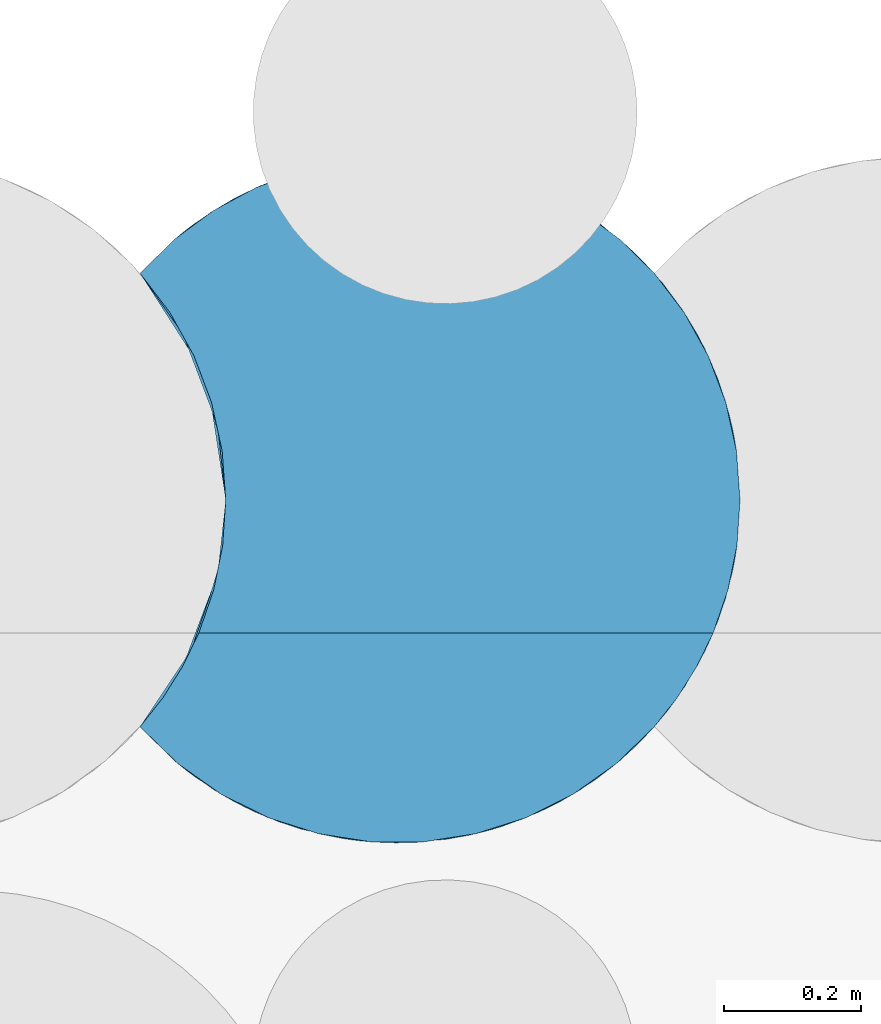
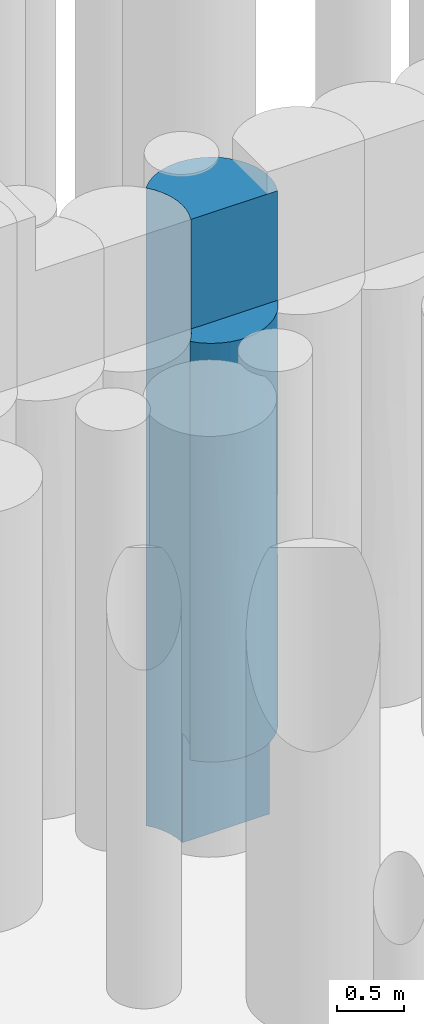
# One storey, part 94 of 104: 1 pile.
"""IFC2X3 building model written with IfcOpenShell, lengths in millimetres."""

from ifc_helpers import new_model, entity, si_unit, converted_unit, derived_unit, direction, frame, origin, place, context, subcontext, project, spatial, faceted_brep, source, transform, mapped, material, element, save


model = new_model("IFC2X3")

# Units and contexts
model_context = context("Model", 3, precision=0.01, world=origin(), true_north=direction((6.12303176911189e-17, 1.0)))
body_context = subcontext(model_context, "Body", "Model", "MODEL_VIEW")
ifc_project = project(units=[si_unit("LENGTHUNIT", "METRE", prefix="MILLI"), si_unit("AREAUNIT", "SQUARE_METRE", prefix="MILLI"), si_unit("VOLUMEUNIT", "CUBIC_METRE"), converted_unit("PLANEANGLEUNIT", "DEGREE", entity("IfcRatioMeasure", 0.0174532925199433), si_unit("PLANEANGLEUNIT", "RADIAN"), dimensions=[0, 0, 0, 0, 0, 0, 0]), si_unit("MASSUNIT", "GRAM", prefix="KILO"), derived_unit("MASSDENSITYUNIT", [(si_unit("MASSUNIT", "GRAM", prefix="KILO"), 1), (si_unit("LENGTHUNIT", "METRE"), -3)]), derived_unit("MOMENTOFINERTIAUNIT", [(si_unit("LENGTHUNIT", "METRE"), 4)]), si_unit("TIMEUNIT", "SECOND"), si_unit("FREQUENCYUNIT", "HERTZ"), si_unit("THERMODYNAMICTEMPERATUREUNIT", "DEGREE_CELSIUS"), derived_unit("THERMALTRANSMITTANCEUNIT", [(si_unit("MASSUNIT", "GRAM", prefix="KILO"), 1), (si_unit("THERMODYNAMICTEMPERATUREUNIT", "KELVIN"), -1), (si_unit("TIMEUNIT", "SECOND"), -3)]), derived_unit("VOLUMETRICFLOWRATEUNIT", [(si_unit("LENGTHUNIT", "METRE"), 3), (si_unit("TIMEUNIT", "SECOND"), -1)]), si_unit("ELECTRICCURRENTUNIT", "AMPERE"), si_unit("ELECTRICVOLTAGEUNIT", "VOLT"), si_unit("POWERUNIT", "WATT"), si_unit("FORCEUNIT", "NEWTON", prefix="KILO"), si_unit("ILLUMINANCEUNIT", "LUX"), si_unit("LUMINOUSFLUXUNIT", "LUMEN"), si_unit("LUMINOUSINTENSITYUNIT", "CANDELA"), derived_unit("USERDEFINED", [(si_unit("MASSUNIT", "GRAM", prefix="KILO"), -1), (si_unit("LENGTHUNIT", "METRE"), -2), (si_unit("TIMEUNIT", "SECOND"), 3), (si_unit("LUMINOUSFLUXUNIT", "LUMEN"), 1)]), derived_unit("LINEARVELOCITYUNIT", [(si_unit("LENGTHUNIT", "METRE"), 1), (si_unit("TIMEUNIT", "SECOND"), -1)]), si_unit("PRESSUREUNIT", "PASCAL"), derived_unit("USERDEFINED", [(si_unit("LENGTHUNIT", "METRE"), -2), (si_unit("MASSUNIT", "GRAM", prefix="KILO"), 1), (si_unit("TIMEUNIT", "SECOND"), -2)]), derived_unit("LINEARFORCEUNIT", [(si_unit("MASSUNIT", "GRAM", prefix="KILO"), 1), (si_unit("LENGTHUNIT", "METRE"), 1), (si_unit("TIMEUNIT", "SECOND"), -2), (si_unit("LENGTHUNIT", "METRE"), -1)]), derived_unit("PLANARFORCEUNIT", [(si_unit("MASSUNIT", "GRAM", prefix="KILO"), 1), (si_unit("LENGTHUNIT", "METRE"), 1), (si_unit("TIMEUNIT", "SECOND"), -2), (si_unit("LENGTHUNIT", "METRE"), -2)])], contexts=[model_context])

# Site, building, storey
site_placement = place(None, origin())
site = spatial("IfcSite", under=ifc_project, at=site_placement, Name="Theater aan de Parade", CompositionType="ELEMENT")
building_placement = place(site_placement, origin())
building = spatial("IfcBuilding", under=site, at=building_placement, Name="Theater aan de Parade", CompositionType="ELEMENT")
storey_placement = place(building_placement, frame((0.0, 0.0, -5520.0)))
storey = spatial("IfcBuildingStorey", under=building, at=storey_placement, Name="-2 kelder", CompositionType="ELEMENT", Elevation=-5520.0)

# Pile
ifc_material = material(Name="00_PBT_MAT_grout")
shared_shape = source(origin(), body_context, "Body", "Brep", [
    faceted_brep([(447.02456758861, 996.610134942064, 0.0), (516.050365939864, 981.753867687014, 0.0), (582.295809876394, 957.322480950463, 0.0), (644.440261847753, 923.802640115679, 0.0), (701.244632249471, 881.862011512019, 0.0), (751.56469811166, 832.344511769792, 0.0), (795.307447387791, 774.871898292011, 0.0), (830.306104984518, 711.705910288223, 0.0), (855.841245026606, 644.155075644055, 0.0), (871.379164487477, 573.629291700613, 0.0), (876.595272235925, 501.595272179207, 0.0), (126.595272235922, 501.595272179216, 0.0), (121.380912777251, 573.617282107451, 0.0), (105.846592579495, 644.137097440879, 0.0), (80.3163177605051, 711.683855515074, 0.0), (45.3225844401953, 774.848704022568, 0.0), (1.5952722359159, 832.31418606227, 0.0), (51.9353252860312, 881.852972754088, 0.0), (108.741467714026, 923.797047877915, 0.0), (170.888616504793, 957.319719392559, 0.0), (237.136331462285, 981.752750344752, 0.0), (306.163620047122, 996.609799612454, 0.0), (376.59435299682, 1001.59527217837, 0.0), (794.275059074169, 776.447224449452, 1151.39918365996), (549.604882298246, 970.70898422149, 4093.32614097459), (481.800030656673, 990.401940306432, 4865.09558305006), (613.960467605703, 941.66090822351, 4865.09409082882), (876.595272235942, 501.595272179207, 1000.0), (481.800030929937, 990.401940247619, 954.904415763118), (868.108974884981, 593.324657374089, 842.443469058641), (844.294832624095, 678.392108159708, 1130.16121150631), (203.580632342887, 970.707129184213, 1063.74296033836), (613.960468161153, 941.660907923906, 954.905906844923), (176.429779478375, 959.78057913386, 2984.52868080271), (80.4086805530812, 904.427126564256, 2785.91210366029), (139.222527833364, 941.656836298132, 4002.37706513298), (813.948631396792, 743.921579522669, 2103.02273262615), (59.7810020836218, 888.413987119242, 3688.83695705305), (727.290636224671, 857.983770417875, 1441.19669368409), (203.580632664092, 970.707129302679, 4824.19214745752), (170.888616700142, 957.31971948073, 5820.0), (237.136331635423, 981.752750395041, 5820.0), (825.568744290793, 721.647132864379, 3047.06693980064), (860.262200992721, 628.348189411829, 3133.64910104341), (861.938500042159, 621.769941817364, 2215.52209961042), (844.294831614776, 678.392110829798, 3917.01219386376), (813.94863149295, 743.921579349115, 4781.58714747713), (864.885161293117, 609.173077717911, 4781.58456585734), (104.796649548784, 921.268369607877, 1017.24976938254), (376.594352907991, 1001.59527217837, 5820.0), (341.290873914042, 1000.34731423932, 4383.11085745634), (306.163620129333, 996.609799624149, 5820.0), (830.30610490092, 711.70591046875, 5820.0), (855.841245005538, 644.155075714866, 5820.0), (244.215833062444, 983.752595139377, 3846.78442775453), (876.595272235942, 501.595272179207, 1848.46227152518), (647.483022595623, 921.856889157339, 3904.97129880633), (764.042224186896, 817.640932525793, 2803.59074451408), (727.290635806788, 857.983770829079, 4310.65468871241), (791.711395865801, 780.304087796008, 3793.1534393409), (673.583725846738, 903.836317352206, 2910.0), (647.981975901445, 921.534859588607, 1919.61968655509), (518.851521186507, 980.931437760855, 2910.0), (876.595272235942, 501.595272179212, 4258.46227152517), (876.595272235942, 501.595272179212, 5820.0), (795.307447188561, 774.871898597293, 5820.0), (249.586758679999, 985.195145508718, 2138.30486461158), (139.222527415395, 941.65683607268, 1966.68029876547), (701.244631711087, 881.862011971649, 5820.0), (751.585178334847, 832.325631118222, 5820.0), (549.604882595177, 970.708984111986, 1726.67385571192), (441.426506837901, 997.374367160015, 1930.76757017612), (871.379164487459, 573.629291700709, 5820.0), (341.29087369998, 1000.34731422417, 1436.88914089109), (1.59527223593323, 832.314186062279, 1561.53624270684), (1.5952722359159, 832.314186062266, 5820.0), (51.9353254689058, 881.852972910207, 5820.0), (1.59527223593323, 832.31418606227, 4471.53900747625), (61.526584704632, 889.837106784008, 1954.88174695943), (1.59527223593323, 832.31418606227, 3123.07801495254), (869.150447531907, 587.556887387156, 3910.71324693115), (876.595272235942, 501.595272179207, 2696.92454305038), (74.5110989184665, 900.02362487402, 4597.01961673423), (582.295809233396, 957.32248124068, 5820.0), (644.440261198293, 923.802640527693, 5820.0), (516.050365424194, 981.753867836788, 5820.0), (447.024567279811, 996.610134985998, 5820.0), (108.741467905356, 923.797047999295, 5820.0), (441.426506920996, 997.374367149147, 3889.23243074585), (341.29087319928, 1000.34731418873, 2910.0), (430.945236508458, 998.632575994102, 2763.16134548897), (876.595272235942, 501.595272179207, 3410.0), (1.59527223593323, 832.314186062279, 2342.3067893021), (876.595272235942, 501.595272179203, 2561.53770592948), (237.133684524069, 21.4385628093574, 1979.16699322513), (170.888936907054, 45.870680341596, 1000.0), (237.139379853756, 21.4369086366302, 1000.0), (768.917184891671, 191.62185904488, 3881.15086458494), (696.35875053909, 117.210935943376, 4820.0), (665.802925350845, 93.7240506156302, 3784.44422191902), (66.8709129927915, 109.076710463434, 1808.25014419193), (1.5952722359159, 170.876358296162, 1780.7670390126), (51.9315440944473, 121.340799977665, 1000.0), (203.582286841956, 32.4828049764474, 2899.0586405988), (299.802150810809, 7.52764876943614, 3674.31726896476), (153.461836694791, 54.1453085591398, 3826.60279259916), (320.379436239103, 4.76554301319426, 2852.66528353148), (341.298032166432, 2.84272347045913, 2031.53927773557), (139.221565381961, 61.5342272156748, 2032.80011868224), (82.8599759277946, 96.9725149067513, 2910.0), (447.035194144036, 6.58192144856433, 1000.0), (481.811471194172, 12.7910665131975, 2031.53838570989), (376.602802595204, 1.5952722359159, 1000.0), (402.774090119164, 2.28107300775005, 3859.67234125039), (491.21400936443, 14.9100093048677, 4820.0), (415.106068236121, 3.08055966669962, 4820.0), (306.169463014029, 6.57991343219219, 1000.0), (1.5952722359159, 170.876358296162, 2561.53407802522), (1.5952722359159, 170.876358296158, 3258.45336803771), (338.084264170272, 3.08057604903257, 4820.0), (261.976279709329, 14.9100694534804, 4820.0), (503.28989174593, 17.9130692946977, 2860.07060782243), (411.907133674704, 2.843758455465, 2896.31653793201), (613.973379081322, 61.536600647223, 2844.67262434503), (698.095123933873, 118.662059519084, 2876.75816738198), (613.973379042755, 61.5366006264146, 1893.76437686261), (516.062532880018, 21.4402105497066, 1000.0), (796.191637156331, 229.67820661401, 2003.43144028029), (768.917184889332, 191.621859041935, 2910.00109910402), (727.301618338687, 145.217580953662, 2013.37708444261), (869.741718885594, 419.093259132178, 1963.43902694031), (855.843884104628, 359.044340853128, 1000.0), (871.38000584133, 429.567031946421, 1000.0), (188.58811601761, 38.2883445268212, 4820.0), (119.661236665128, 72.6606601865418, 4820.0), (61.9987746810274, 112.970718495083, 3850.70843833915), (1.5952722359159, 170.876358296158, 4820.0), (528.358878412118, 25.1838870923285, 3678.66679667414), (859.059163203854, 370.337533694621, 5820.0), (837.435053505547, 307.619253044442, 4820.0), (868.473433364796, 411.840748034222, 4819.53420642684), (582.308728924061, 45.8738948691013, 1000.0), (644.453065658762, 79.3960271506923, 1000.0), (701.256460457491, 121.338631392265, 1000.0), (751.595272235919, 170.876358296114, 1000.0), (795.315189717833, 228.330509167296, 1000.0), (844.29862219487, 324.808461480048, 2323.87070817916), (867.4329558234, 406.314800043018, 2899.27604482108), (830.31122192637, 291.495683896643, 1000.0), (108.739323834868, 79.3948566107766, 1000.0), (826.272265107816, 282.984654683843, 3622.96665012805), (1.5952722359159, 170.876358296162, 1000.0), (564.6020932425, 38.2882085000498, 4820.0), (633.52886863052, 72.660397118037, 4820.0), (785.09391227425, 213.274511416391, 4820.0), (751.594055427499, 170.874978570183, 4820.0), (813.793773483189, 258.989685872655, 4820.0), (837.435053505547, 307.619253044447, 5820.0), (864.634552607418, 392.886207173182, 3834.23114694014), (872.189506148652, 435.365706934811, 5820.0), (56.831299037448, 117.211347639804, 4820.0), (105.846592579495, 644.137097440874, 5820.0), (121.380912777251, 573.617282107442, 5820.0), (126.595272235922, 501.595272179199, 5820.0), (122.192599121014, 435.388855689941, 5820.0), (109.062113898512, 370.348380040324, 5820.0), (87.4350535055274, 307.619253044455, 5820.0), (746.595272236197, 307.619253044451, 5820.0), (45.3225844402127, 774.848704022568, 5820.0), (80.3163177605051, 711.683855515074, 5820.0), (87.4350535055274, 307.619253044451, 4820.0), (63.8150080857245, 259.027956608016, 4820.0), (35.0899489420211, 213.268896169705, 4820.0), (126.595272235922, 501.595272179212, 1000.0), (118.324598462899, 592.161655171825, 2272.69338970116), (94.3024449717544, 678.371969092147, 1823.06883603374), (103.716989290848, 651.110713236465, 929.570301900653), (117.814735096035, 594.887497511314, 3408.71629850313), (84.1845555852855, 703.119582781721, 3007.5070434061), (63.9612324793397, 743.898835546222, 4904.38906662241), (63.9612326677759, 743.898835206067, 1002.251565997), (52.1169837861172, 764.142930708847, 4037.74535729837), (114.888484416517, 609.15799313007, 4904.38907047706), (126.595272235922, 501.595272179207, 4258.46227107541), (126.595272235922, 501.595272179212, 2696.92454215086), (126.595272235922, 501.595272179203, 3410.0), (94.3024445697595, 678.371970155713, 4191.94526063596), (52.6084708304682, 763.344684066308, 1951.92213503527), (126.595272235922, 501.595272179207, 1848.46227107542), (126.595272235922, 501.595272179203, 2561.53770595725), (105.846592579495, 359.053446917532, 1000.0), (80.3163177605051, 291.506688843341, 1000.0), (63.9612331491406, 259.291710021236, 1953.95952441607), (114.888484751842, 394.0325527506, 1953.95952434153), (94.3024456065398, 324.818576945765, 2715.05844097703), (53.5045692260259, 241.309943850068, 2910.0), (45.3225844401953, 228.341840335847, 1000.0), (118.711102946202, 413.153148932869, 2780.5804795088), (76.2818326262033, 283.004335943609, 3740.57177268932), (121.380912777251, 429.573262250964, 1000.0), (118.485844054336, 411.908788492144, 4821.60576812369), (114.840217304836, 393.813670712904, 3834.23114692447)], [[[0, 1, 2, 3, 4, 5, 6, 7, 8, 9, 10, 11, 12, 13, 14, 15, 16, 17, 18, 19, 20, 21, 22]], [[7, 6, 23]], [[24, 25, 26]], [[10, 9, 27]], [[1, 28, 2]], [[29, 8, 30]], [[19, 31, 20]], [[3, 2, 32]], [[33, 34, 35]], [[23, 36, 30]], [[34, 37, 35]], [[38, 36, 23]], [[5, 4, 38]], [[28, 32, 2]], [[39, 40, 41]], [[42, 43, 44]], [[5, 38, 23]], [[8, 7, 30]], [[45, 46, 47]], [[48, 31, 19]], [[49, 50, 51]], [[52, 53, 46]], [[33, 35, 54]], [[44, 55, 29]], [[47, 46, 53]], [[24, 26, 56]], [[57, 58, 59]], [[60, 61, 62]], [[63, 47, 64]], [[65, 52, 46]], [[33, 66, 67]], [[58, 68, 69]], [[70, 71, 62]], [[26, 68, 58]], [[28, 1, 0]], [[70, 61, 32]], [[59, 46, 45]], [[32, 28, 70]], [[64, 47, 72]], [[73, 22, 21]], [[69, 46, 58]], [[17, 16, 74]], [[75, 76, 77]], [[78, 79, 34]], [[72, 47, 53]], [[66, 31, 67]], [[9, 29, 27]], [[67, 31, 48]], [[48, 19, 18]], [[80, 81, 43]], [[21, 31, 73]], [[82, 35, 37]], [[46, 69, 65]], [[26, 83, 84]], [[83, 26, 25]], [[83, 25, 85]], [[28, 71, 70]], [[21, 20, 31]], [[85, 25, 86]], [[58, 46, 59]], [[39, 54, 35]], [[35, 82, 39]], [[50, 39, 51]], [[74, 48, 17]], [[44, 30, 36]], [[57, 38, 60]], [[87, 82, 76]], [[4, 3, 32]], [[39, 87, 40]], [[49, 86, 25]], [[73, 28, 22]], [[80, 47, 63]], [[25, 88, 50]], [[51, 39, 41]], [[54, 39, 50]], [[70, 62, 61]], [[4, 32, 38]], [[22, 28, 0]], [[71, 28, 73]], [[68, 26, 84]], [[56, 26, 58]], [[88, 25, 24]], [[49, 25, 50]], [[44, 36, 42]], [[55, 27, 29]], [[73, 89, 71]], [[50, 88, 89]], [[90, 62, 71]], [[62, 24, 56]], [[24, 62, 88]], [[88, 62, 90]], [[60, 38, 61]], [[38, 32, 61]], [[58, 60, 56]], [[62, 56, 60]], [[50, 89, 54]], [[73, 66, 89]], [[89, 33, 54]], [[34, 33, 67]], [[89, 66, 33]], [[31, 66, 73]], [[45, 42, 59]], [[59, 42, 57]], [[78, 34, 67]], [[34, 79, 37]], [[17, 48, 18]], [[78, 48, 74]], [[42, 45, 43]], [[57, 42, 36]], [[38, 57, 36]], [[58, 57, 60]], [[80, 43, 45]], [[81, 44, 43]], [[47, 80, 45]], [[80, 63, 91, 81]], [[79, 77, 37]], [[82, 37, 77]], [[76, 82, 77]], [[39, 82, 87]], [[7, 23, 30]], [[5, 23, 6]], [[48, 78, 67]], [[78, 74, 92, 79]], [[8, 29, 9]], [[44, 29, 30]], [[44, 81, 93, 55]], [[71, 89, 90]], [[88, 90, 89]], [[94, 95, 96]], [[97, 98, 99]], [[100, 101, 102]], [[103, 104, 105]], [[106, 94, 107]], [[108, 103, 109]], [[110, 111, 112]], [[113, 114, 115]], [[112, 107, 116]], [[117, 100, 109]], [[117, 109, 118]], [[111, 107, 112]], [[104, 119, 120]], [[111, 121, 122]], [[99, 123, 124]], [[125, 111, 126]], [[127, 128, 129]], [[110, 126, 111]], [[130, 131, 132]], [[122, 106, 107]], [[105, 133, 134]], [[130, 27, 55, 93]], [[109, 135, 118]], [[136, 118, 135]], [[120, 105, 104]], [[105, 120, 133]], [[99, 124, 97]], [[107, 111, 122]], [[114, 113, 137]], [[116, 107, 94]], [[99, 137, 123]], [[138, 139, 140]], [[141, 142, 125]], [[125, 142, 143]], [[144, 129, 143]], [[125, 126, 141]], [[125, 143, 129]], [[122, 113, 106]], [[127, 144, 145]], [[121, 123, 137]], [[146, 130, 147]], [[135, 105, 134]], [[146, 148, 131]], [[124, 125, 129]], [[128, 124, 129]], [[146, 131, 130]], [[148, 146, 127]], [[104, 106, 113]], [[100, 149, 108]], [[128, 146, 150]], [[102, 101, 151]], [[152, 137, 99]], [[99, 153, 152]], [[97, 154, 155]], [[153, 99, 98]], [[144, 127, 129]], [[156, 97, 150]], [[108, 149, 95]], [[150, 139, 156]], [[157, 139, 138]], [[139, 150, 158]], [[158, 91, 63]], [[150, 97, 128]], [[98, 97, 155]], [[158, 140, 139]], [[147, 91, 158]], [[97, 156, 154]], [[113, 119, 104]], [[100, 117, 101]], [[137, 152, 114]], [[103, 108, 94]], [[64, 159, 140]], [[125, 123, 121]], [[135, 134, 160]], [[109, 103, 105]], [[158, 63, 140]], [[147, 150, 146]], [[148, 127, 145]], [[146, 128, 127]], [[64, 140, 63]], [[138, 140, 159]], [[105, 135, 109]], [[136, 135, 160]], [[95, 94, 108]], [[116, 94, 96]], [[124, 128, 97]], [[125, 124, 123]], [[149, 100, 102]], [[109, 100, 108]], [[27, 130, 132]], [[147, 130, 93]], [[147, 93, 81, 91]], [[147, 158, 150]], [[113, 122, 121]], [[119, 113, 115]], [[104, 103, 106]], [[94, 106, 103]], [[121, 111, 125]], [[113, 121, 137]], [[161, 162, 163, 164, 165, 166, 167, 157, 138, 159, 64, 72, 53, 52, 65, 69, 68, 84, 83, 85, 86, 49, 51, 41, 40, 87, 76, 75, 168, 169]], [[160, 134, 133, 120, 119, 115, 114, 152, 153, 98, 155, 154, 156, 139, 170, 171, 172, 136]], [[167, 166, 170, 139, 157]], [[173, 12, 11]], [[174, 175, 176]], [[174, 177, 178]], [[168, 179, 169]], [[176, 180, 14]], [[175, 180, 176]], [[176, 14, 13]], [[16, 180, 74]], [[77, 179, 75]], [[176, 13, 12]], [[75, 179, 168]], [[179, 77, 181]], [[182, 183, 163]], [[177, 184, 185, 183]], [[179, 182, 169]], [[169, 182, 161]], [[182, 179, 186]], [[15, 180, 16]], [[162, 161, 182]], [[14, 180, 15]], [[79, 178, 181]], [[162, 182, 163]], [[178, 79, 92]], [[183, 182, 177]], [[175, 178, 187]], [[186, 179, 181]], [[186, 181, 178]], [[181, 77, 79]], [[186, 178, 177]], [[187, 92, 74]], [[182, 186, 177]], [[175, 174, 178]], [[174, 176, 188]], [[173, 176, 12]], [[174, 188, 189, 184]], [[188, 176, 173]], [[174, 184, 177]], [[74, 180, 187]], [[92, 187, 178]], [[175, 187, 180]], [[190, 191, 192, 193]], [[192, 151, 101, 117]], [[194, 192, 195]], [[196, 151, 192]], [[118, 136, 172]], [[191, 196, 192]], [[194, 197, 193]], [[198, 118, 172]], [[193, 199, 190]], [[199, 193, 173]], [[171, 170, 198]], [[200, 183, 201]], [[185, 197, 201]], [[195, 117, 118]], [[193, 189, 188, 173]], [[170, 200, 201]], [[171, 198, 172]], [[166, 165, 170]], [[200, 170, 165]], [[201, 198, 170]], [[185, 201, 183]], [[118, 198, 195]], [[200, 164, 163]], [[189, 193, 197]], [[194, 193, 192]], [[198, 201, 194]], [[117, 195, 192]], [[194, 195, 198]], [[183, 200, 163]], [[164, 200, 165]], [[197, 185, 184, 189]], [[197, 194, 201]], [[144, 143, 142, 141, 126, 110, 112, 116, 96, 95, 149, 102, 151, 196, 191, 190, 199, 173, 27, 132, 131, 148, 145]], [[173, 11, 10, 27]]]),
])
pile_placement = place(storey_placement, frame((83123.4047277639, 20202.3807469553, -3840.0)))
element("IfcPile", 1, at=pile_placement, inside=storey, material=ifc_material, Name="17_PBT_SFO_grondkering_rond:Ø1000 (grondkering)", ObjectType="17_PBT_SFO_grondkering_rond:Ø1000 (grondkering)", PredefinedType="NOTDEFINED", context=body_context, shape_type="MappedRepresentation", body=[
    mapped(shared_shape, transform((0.0, 0.0, 0.0), scale=1.0)),
])

save(model, "model.ifc")
